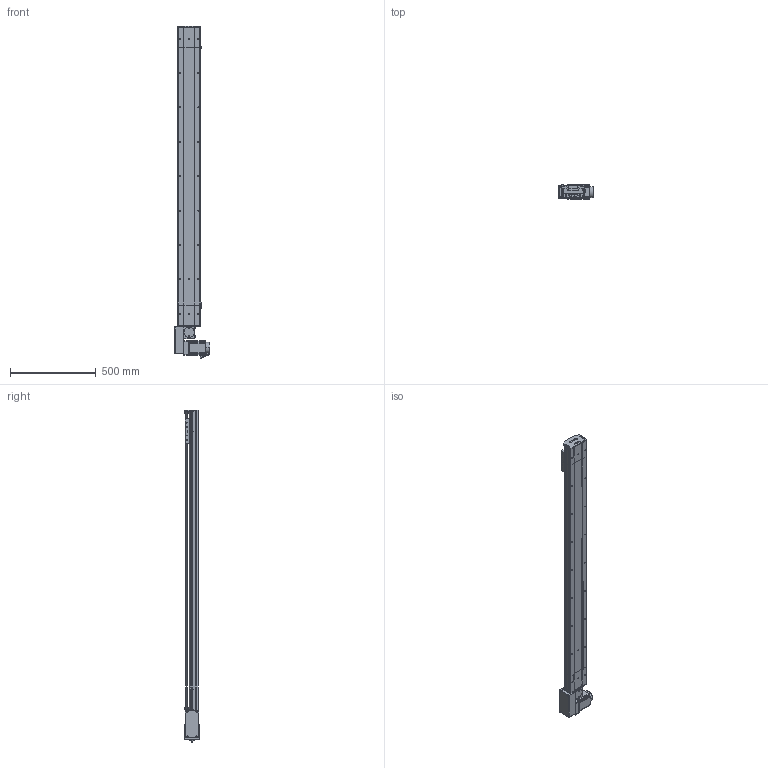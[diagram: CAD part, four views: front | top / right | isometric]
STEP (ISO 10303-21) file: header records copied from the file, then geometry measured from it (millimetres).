
FILE_DESCRIPTION (( 'STEP AP214' ), '1' );
FILE_NAME ('D14 TBH RH S1500.STEP', '2010-06-29T14:01:18', ( 'Conseil Régional Haute-Normandie' ), ( 'Conseil Régional Haute-Normandie' ), 'SwSTEP 2.0', 'SolidWorks 2010', '' );
FILE_SCHEMA (( 'AUTOMOTIVE_DESIGN' ));
Length unit declared in the file: millimetre
Products named in the file (39): corpl 1500_Default; Tail D14B_Default; Rail + couroie D14 Course 1500 ; Plaque racord D14_Default; couvercle D14 course L1500_Default; Conecteur2_Default; Conecteur_Default; plaque de  bout head D14 RH_Default; couvercle D14 head_Default; poulie head_Default; Arbre+rail head D14; couroie 2_Default; poulie tail_Default; vis M5 L8 90°_Default; corp head D14_Default; D14 TB H RH_Default; tete d''axe haut D14; couvercle D14_Default; plaque de  bout tail D14_Default; Couroie_Default; vis M5 L16_Default; corpl tail D14_Default; codeur 90BLDC100-640; avant 90BLDC100A-640; Moteur motionking 90BLDC100A-640; Arbre+rail tail D14; corps 90BLDC100A-640; Cvis M5 L70_Default; Vis M5 L16-2_Default; vis M5 L12_Default; guide D14; Chariot D14; chariot D14B_Default; renvoi RH_Default; Cache arbre_Default; vis M5 L5_Default; Cache_Default; D14 TBH RH S1500; D14 couroie L1500_Default
Assembly tree (68 placements, depth 4):
  D14 TBH RH S1500
    D14 TB H RH_Default
      vis M5 L12_Default  x12
      Cache arbre_Default
      Cache_Default  x2
      Cvis M5 L70_Default  x4
      plaque de  bout head D14 RH_Default
      Vis M5 L16-2_Default  x4
      Arbre+rail head D14
      corp head D14_Default
      Moteur motionking 90BLDC100A-640
        codeur 90BLDC100-640
        Conecteur_Default
        Conecteur2_Default
        corps 90BLDC100A-640
        avant 90BLDC100A-640
      couroie 2_Default
      renvoi RH_Default
      Plaque racord D14_Default
      poulie head_Default
      couvercle D14 head_Default
      vis M5 L5_Default  x2
    Tail D14B_Default
      poulie tail_Default
      vis M5 L8 90°_Default  x2
      vis M5 L16_Default  x2
      couvercle D14_Default
      plaque de  bout tail D14_Default
      vis M5 L12_Default  x4
      corpl tail D14_Default
      Arbre+rail tail D14
      Couroie_Default
      tete d''axe haut D14
    chariot D14B_Default
      vis M5 L12_Default  x4
      Chariot D14
      guide D14  x2
    D14 couroie L1500_Default
      Rail + couroie D14 Course 1500 
      couvercle D14 course L1500_Default
      corpl 1500_Default
Bounding box: 207.2 x 85.9 x 1932.45 mm (x, y, z)
Volume: 7608444.4 mm3; surface area: 2581621.5 mm2
Topology: 92 solids, 92 shells, 2645 faces, 6467 edges, 4170 vertices
Faces by surface type: plane 1593, cylinder 739, bspline 136, torus 89, cone 84, sphere 4
Entity records: 79640 total; most frequent: CARTESIAN_POINT 23621, ORIENTED_EDGE 9794, DIRECTION 9588, EDGE_CURVE 4897, VECTOR 3286, LINE 3286, VERTEX_POINT 3220, AXIS2_PLACEMENT_3D 3151
